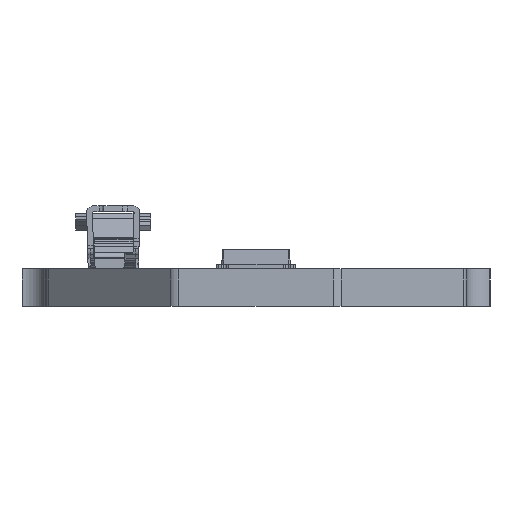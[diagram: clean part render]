
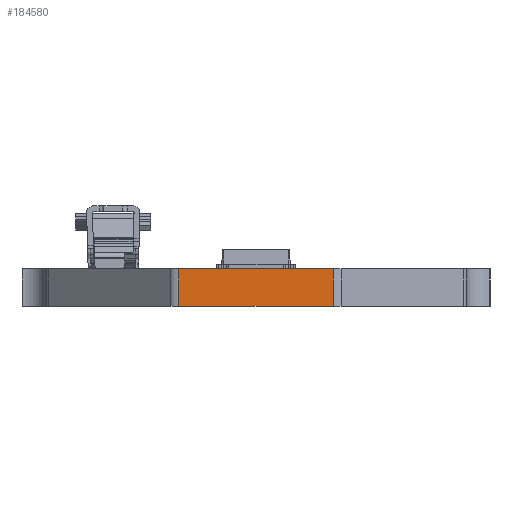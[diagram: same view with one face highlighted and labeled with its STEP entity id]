
A CAD part, left-side view. The second image highlights one B-rep face of the part: STEP entity #184580.
In plain terms, the highlighted planar face has unit normal (-1, 0, 0).
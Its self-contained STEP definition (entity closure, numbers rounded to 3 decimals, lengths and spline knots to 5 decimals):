
#16971=FACE_OUTER_BOUND('',#26721,.T.);
#26721=EDGE_LOOP('',(#157391,#157392,#157393,#157394));
#29221=LINE('',#252575,#49349);
#46105=LINE('',#296668,#66233);
#46106=LINE('',#296671,#66234);
#46107=LINE('',#296672,#66235);
#49349=VECTOR('',#203531,0.3937);
#66233=VECTOR('',#245595,0.3937);
#66234=VECTOR('',#245598,0.3937);
#66235=VECTOR('',#245599,0.3937);
#68976=VERTEX_POINT('',#252572);
#68977=VERTEX_POINT('',#252574);
#83596=VERTEX_POINT('',#296666);
#83597=VERTEX_POINT('',#296670);
#86432=EDGE_CURVE('',#68977,#68976,#29221,.T.);
#108369=EDGE_CURVE('',#68977,#83596,#46105,.T.);
#108370=EDGE_CURVE('',#83597,#68976,#46106,.T.);
#108371=EDGE_CURVE('',#83596,#83597,#46107,.T.);
#157391=ORIENTED_EDGE('',*,*,#108369,.F.);
#157392=ORIENTED_EDGE('',*,*,#86432,.T.);
#157393=ORIENTED_EDGE('',*,*,#108370,.F.);
#157394=ORIENTED_EDGE('',*,*,#108371,.F.);
#166311=PLANE('',#199133);
#184580=ADVANCED_FACE('',(#16971),#166311,.T.);
#199133=AXIS2_PLACEMENT_3D('',#296669,#245596,#245597);
#203531=DIRECTION('',(0.,1.,0.));
#245595=DIRECTION('',(0.,0.,-1.));
#245596=DIRECTION('center_axis',(-1.,0.,0.));
#245597=DIRECTION('ref_axis',(0.,1.,0.));
#245598=DIRECTION('',(0.,0.,1.));
#245599=DIRECTION('',(0.,1.,0.));
#252572=CARTESIAN_POINT('',(0.,0.52334,0.));
#252574=CARTESIAN_POINT('',(0.,0.26406,0.));
#252575=CARTESIAN_POINT('',(0.,0.25591,0.));
#296666=CARTESIAN_POINT('',(0.,0.26406,-0.06299));
#296668=CARTESIAN_POINT('',(0.,0.26406,0.));
#296669=CARTESIAN_POINT('Origin',(0.,0.25591,0.));
#296670=CARTESIAN_POINT('',(0.,0.52334,-0.06299));
#296671=CARTESIAN_POINT('',(0.,0.52334,0.));
#296672=CARTESIAN_POINT('',(0.,0.25591,-0.06299));
